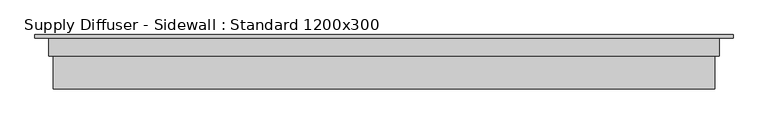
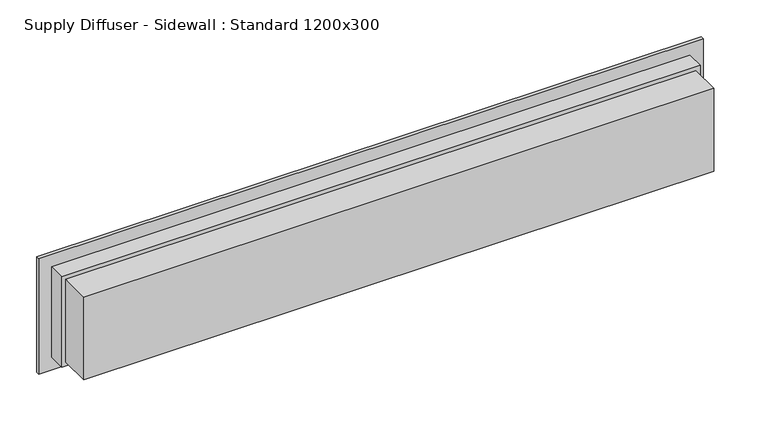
"""IFC4 building model written with IfcOpenShell, lengths in millimetres: air terminal geometry, Supply Diffuser - Sidewall : Standard 1200x300."""

from ifc_helpers import new_model, si_unit, origin, place, context, project, spatial, faceted_brep, source, transform, mapped, element, save


def supply_diffuser_sidewall_standard_1200x300_04a8d683(model_context):
    return source(origin(), model_context, "Body", "Brep", [
        faceted_brep([(520.6375, 4.7625, 95.6375), (520.6375, 4.7625, -95.6375), (-520.6375, 4.7625, -95.6375), (-520.6375, 4.7625, 95.6375), (520.6375, 0.0, 95.6375), (-520.6375, 0.0, 95.6375), (-520.6375, 0.0, -95.6375), (520.6375, 0.0, -95.6375), (-500.0, 0.0, 75.0), (500.0, 0.0, 75.0), (500.0, 0.0, -75.0), (-500.0, 0.0, -75.0), (-500.0, -27.384375, 75.0), (-500.0, -27.384375, -75.0), (500.0, -27.384375, -75.0), (500.0, -27.384375, 75.0), (-493.65, -27.384375, 68.65), (493.65, -27.384375, 68.65), (493.65, -27.384375, -68.65), (-493.65, -27.384375, -68.65), (-493.65, -76.2, 68.65), (-493.65, -76.2, -68.65), (493.65, -76.2, -68.65), (493.65, -76.2, 68.65)], [[[0, 1, 2, 3]], [[4, 5, 6, 7], [8, 9, 10, 11]], [[3, 5, 4, 0]], [[2, 6, 5, 3]], [[1, 7, 6, 2]], [[0, 4, 7, 1]], [[12, 13, 14, 15], [16, 17, 18, 19]], [[12, 8, 11, 13]], [[13, 11, 10, 14]], [[14, 10, 9, 15]], [[15, 9, 8, 12]], [[20, 21, 22, 23]], [[20, 16, 19, 21]], [[21, 19, 18, 22]], [[22, 18, 17, 23]], [[23, 17, 16, 20]]]),
    ])


if __name__ == "__main__":
    model = new_model("IFC4")
    model_context = context("Model", 3, world=origin())
    ifc_project = project(units=[si_unit("LENGTHUNIT", "METRE", prefix="MILLI")], contexts=[model_context])
    site = spatial("IfcSite", under=ifc_project)
    building = spatial("IfcBuilding", under=site)
    placement = place(None, origin())
    supply_diffuser_sidewall_standard_1200x300_shape = supply_diffuser_sidewall_standard_1200x300_04a8d683(model_context)
    element("IfcAirTerminal", 1, ObjectType="Supply Diffuser - Sidewall : Standard 1200x300", at=placement, inside=building, context=model_context, shape_type="MappedRepresentation", body=[
        mapped(supply_diffuser_sidewall_standard_1200x300_shape, transform((0.0, 0.0, 0.0), x_axis=(1.0, 0.0, 0.0), y_axis=(0.0, 1.0, 0.0), z_axis=(0.0, 0.0, 1.0))),
    ])
    save(model, "model.ifc")
